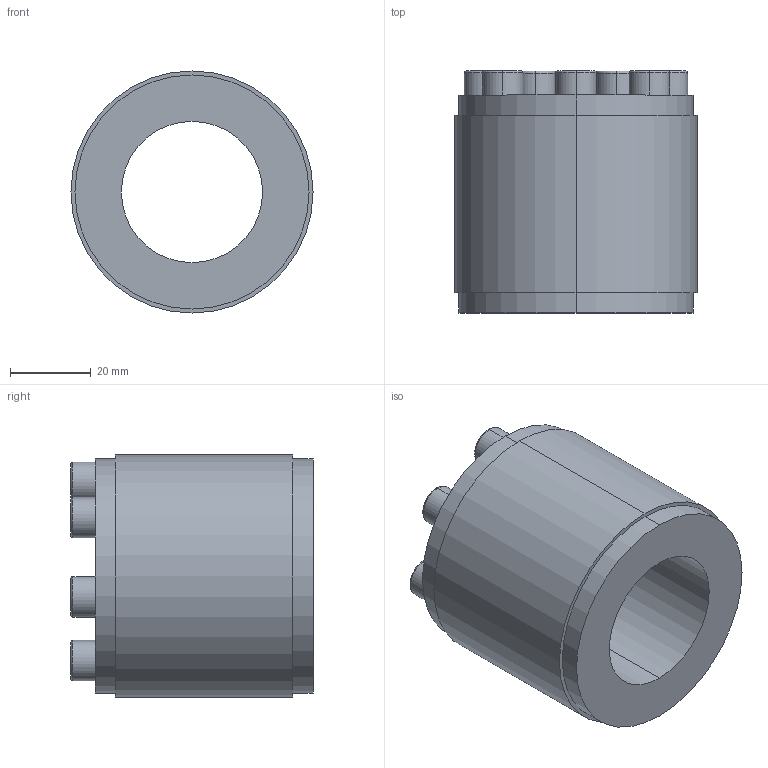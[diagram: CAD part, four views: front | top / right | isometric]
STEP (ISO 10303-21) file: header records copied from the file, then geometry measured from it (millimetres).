
FILE_DESCRIPTION (( 'STEP AP203' ), '1' );
FILE_NAME ('PL-D1 35-60.STEP', '2021-10-22T08:53:17', ( '' ), ( '' ), 'SwSTEP 2.0', 'SolidWorks 2018', '' );
FILE_SCHEMA (( 'CONFIG_CONTROL_DESIGN' ));
Length unit declared in the file: millimetre
Products named in the file (1): PL-D1 35-60
Bounding box: 60 x 60 x 60 mm (x, y, z)
Volume: 101706.2 mm3; surface area: 21419.4 mm2
Topology: 1 solids, 1 shells, 96 faces, 220 edges, 142 vertices
Faces by surface type: plane 60, cylinder 22, torus 14
Entity records: 2785 total; most frequent: DIRECTION 486, CARTESIAN_POINT 459, ORIENTED_EDGE 440, EDGE_CURVE 220, AXIS2_PLACEMENT_3D 169, VECTOR 148, LINE 148, VERTEX_POINT 142
